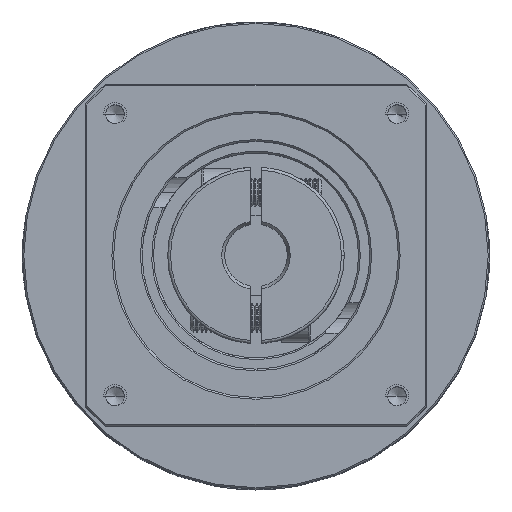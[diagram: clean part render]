
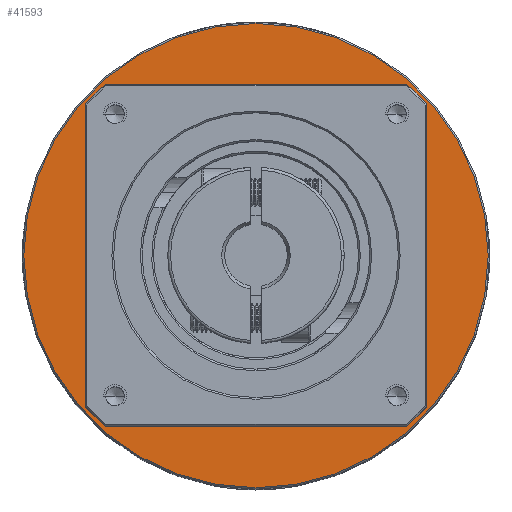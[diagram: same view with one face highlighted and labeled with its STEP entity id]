
A CAD part, top view. The second image highlights one B-rep face of the part: STEP entity #41593.
In plain terms, the highlighted planar face has unit normal (0, 0, 1).
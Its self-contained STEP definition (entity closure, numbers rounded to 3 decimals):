
#2674 = CARTESIAN_POINT ( 'NONE',  ( -64.347, 16.502, -14.546 ) ) ;
#7432 = CARTESIAN_POINT ( 'NONE',  ( -23.597, 16.502, -14.546 ) ) ;
#8711 = CARTESIAN_POINT ( 'NONE',  ( -64.347, 16.502, -14.546 ) ) ;
#12409 = DIRECTION ( 'NONE',  ( -1., 0., 0. ) ) ;
#12508 = AXIS2_PLACEMENT_3D ( 'NONE', #83299, #25298, #92982 ) ;
#12536 = FACE_OUTER_BOUND ( 'NONE', #63701, .T. ) ;
#14379 = DIRECTION ( 'NONE',  ( 0., 0., 1. ) ) ;
#14475 = AXIS2_PLACEMENT_3D ( 'NONE', #114024, #56316, #123744 ) ;
#18511 = DIRECTION ( 'NONE',  ( -1., 0., 0. ) ) ;
#23788 = PLANE ( 'NONE',  #120777 ) ;
#24548 = AXIS2_PLACEMENT_3D ( 'NONE', #8711, #76689, #18511 ) ;
#25298 = DIRECTION ( 'NONE',  ( 0., 0., -1. ) ) ;
#36221 = ORIENTED_EDGE ( 'NONE', *, *, #58416, .T. ) ;
#41593 = ADVANCED_FACE ( 'NONE', ( #12536, #89863 ), #23788, .T. ) ;
#43085 = EDGE_CURVE ( 'NONE', #112535, #90606, #46397, .T. ) ;
#46397 = CIRCLE ( 'NONE', #12508, 30. ) ;
#48905 = EDGE_CURVE ( 'NONE', #115271, #55591, #113416, .T. ) ;
#55591 = VERTEX_POINT ( 'NONE', #68305 ) ;
#56316 = DIRECTION ( 'NONE',  ( 0., 0., -1. ) ) ;
#58416 = EDGE_CURVE ( 'NONE', #90606, #112535, #67898, .T. ) ;
#63701 = EDGE_LOOP ( 'NONE', ( #105529, #68102 ) ) ;
#67898 = CIRCLE ( 'NONE', #24548, 30. ) ;
#68102 = ORIENTED_EDGE ( 'NONE', *, *, #48905, .F. ) ;
#68305 = CARTESIAN_POINT ( 'NONE',  ( -105.097, 16.502, -14.546 ) ) ;
#70629 = DIRECTION ( 'NONE',  ( 0., 0., -1. ) ) ;
#72315 = CARTESIAN_POINT ( 'NONE',  ( -34.347, 16.502, -14.546 ) ) ;
#72557 = CARTESIAN_POINT ( 'NONE',  ( -64.347, 16.502, -14.546 ) ) ;
#76689 = DIRECTION ( 'NONE',  ( 0., 0., -1. ) ) ;
#82223 = DIRECTION ( 'NONE',  ( 1., 0., 0. ) ) ;
#83299 = CARTESIAN_POINT ( 'NONE',  ( -64.347, 16.502, -14.546 ) ) ;
#89863 = FACE_BOUND ( 'NONE', #111908, .T. ) ;
#90606 = VERTEX_POINT ( 'NONE', #72315 ) ;
#92124 = CIRCLE ( 'NONE', #14475, 40.75 ) ;
#92982 = DIRECTION ( 'NONE',  ( -1., 0., 0. ) ) ;
#94816 = ORIENTED_EDGE ( 'NONE', *, *, #43085, .T. ) ;
#101697 = CARTESIAN_POINT ( 'NONE',  ( -94.347, 16.502, -14.546 ) ) ;
#103422 = AXIS2_PLACEMENT_3D ( 'NONE', #2674, #70629, #12409 ) ;
#105529 = ORIENTED_EDGE ( 'NONE', *, *, #124661, .F. ) ;
#111908 = EDGE_LOOP ( 'NONE', ( #94816, #36221 ) ) ;
#112535 = VERTEX_POINT ( 'NONE', #101697 ) ;
#113416 = CIRCLE ( 'NONE', #103422, 40.75 ) ;
#114024 = CARTESIAN_POINT ( 'NONE',  ( -64.347, 16.502, -14.546 ) ) ;
#115271 = VERTEX_POINT ( 'NONE', #7432 ) ;
#120777 = AXIS2_PLACEMENT_3D ( 'NONE', #72557, #14379, #82223 ) ;
#123744 = DIRECTION ( 'NONE',  ( -1., 0., 0. ) ) ;
#124661 = EDGE_CURVE ( 'NONE', #55591, #115271, #92124, .T. ) ;
